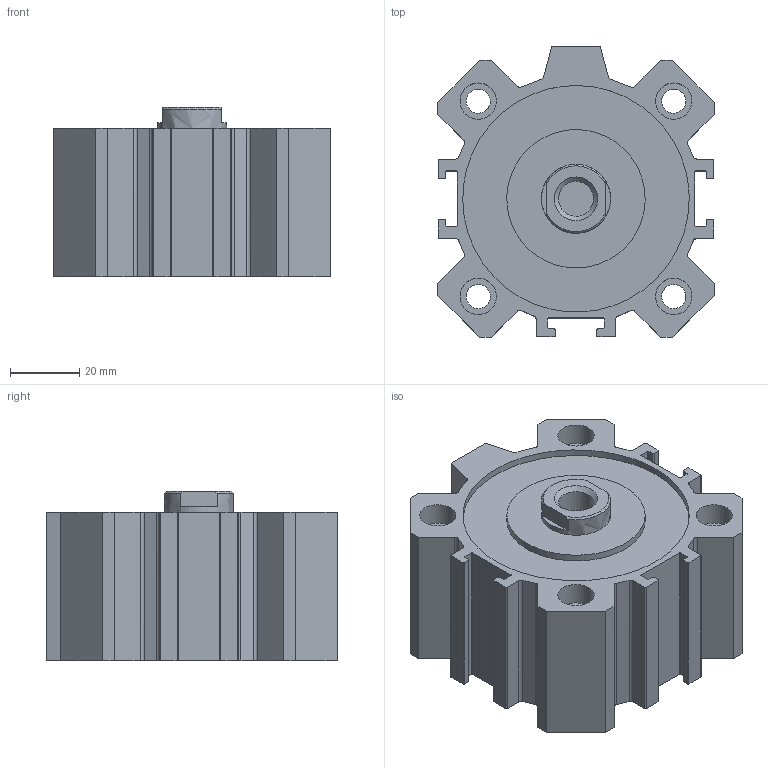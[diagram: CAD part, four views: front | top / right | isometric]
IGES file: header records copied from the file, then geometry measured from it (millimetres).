
Global section: file name: 1512_63_0005; native system: Autodesk Inventor 2014; preprocessor: unknown; author: A. Manieri; date: 20160907.135351; units: millimetre
Bounding box: 80 x 84 x 49 mm (x, y, z)
Volume: 198231.7 mm3; surface area: 55350.5 mm2
Topology: 2 solids, 2 shells, 164 faces, 438 edges, 296 vertices
Faces by surface type: bspline 164
